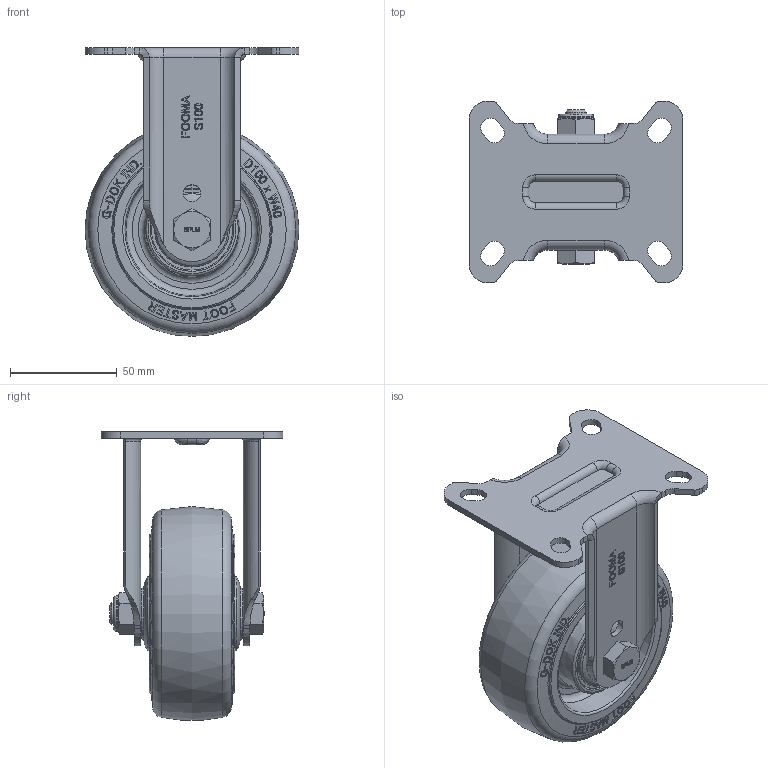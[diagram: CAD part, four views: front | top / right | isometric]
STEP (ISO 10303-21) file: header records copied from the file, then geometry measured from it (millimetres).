
FILE_DESCRIPTION(/* description */ (''),/* implementation_level */ '2;1');
FILE_NAME(/* name */ '\\192.168.10.38\지덕공유\1.기술연구소\2.연구개발 진행중\98.스테인레스캐스터 개발건_2023.10.26\제품설계\3D\홈페이지용\SPLM-100-ARF-HRD-PEU.stp',/* time_stamp */ '2025-02-18T16:59:14+09:00',/* author */ ('admin'),/* organization */ ('지덕산업'),/* preprocessor_version */ 'ST-DEVELOPER v18.1',/* originating_system */ 'Autodesk Inventor 2021',/* authorisation */ '');
FILE_SCHEMA (('CONFIG_CONTROL_DESIGN'));
Length unit declared in the file: millimetre
Products named in the file (1): SPLM-100-ARF-HRD-PEU
Bounding box: 100 x 85 x 134.83 mm (x, y, z)
Volume: 303893.1 mm3; surface area: 65522.6 mm2
Topology: 1 solids, 1 shells, 910 faces, 2444 edges, 1613 vertices
Faces by surface type: plane 393, bspline 360, cone 74, cylinder 47, torus 36
Full cylindrical faces by diameter (mm): 8 x2, 10 x1, 11 x1, 16.5 x1
Entity records: 31795 total; most frequent: CARTESIAN_POINT 12481, ORIENTED_EDGE 4888, DIRECTION 2646, EDGE_CURVE 2444, VERTEX_POINT 1613, LINE 1064, VECTOR 1064, EDGE_LOOP 1001
